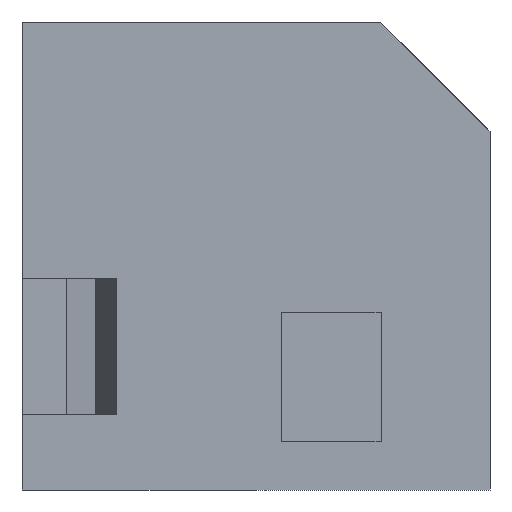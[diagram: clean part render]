
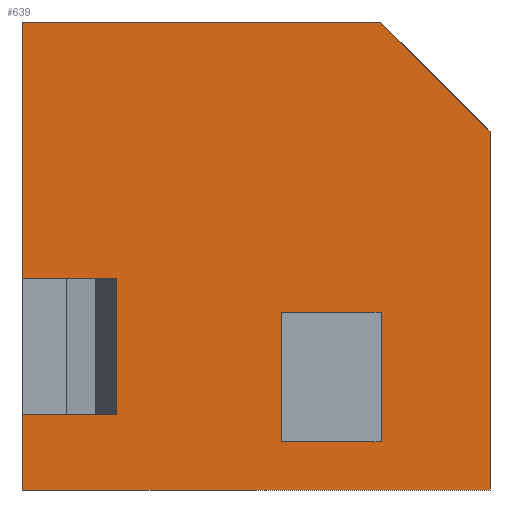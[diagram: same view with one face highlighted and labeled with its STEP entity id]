
A CAD part, left-side view. The second image highlights one B-rep face of the part: STEP entity #639.
In plain terms, the highlighted planar face has unit normal (-1, 0, 0).
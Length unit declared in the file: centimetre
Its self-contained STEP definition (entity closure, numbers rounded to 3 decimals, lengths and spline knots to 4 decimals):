
#10 = EDGE_CURVE ( 'NONE', #595, #474, #571, .T. ) ;
#19 = DIRECTION ( 'NONE',  ( 0., -1., 0. ) ) ;
#25 = CARTESIAN_POINT ( 'NONE',  ( 0., 1000., 1000. ) ) ;
#32 = CARTESIAN_POINT ( 'NONE',  ( 0., 233.357, 1000. ) ) ;
#42 = LINE ( 'NONE', #799, #473 ) ;
#51 = EDGE_CURVE ( 'NONE', #181, #789, #169, .T. ) ;
#52 = VERTEX_POINT ( 'NONE', #359 ) ;
#53 = ORIENTED_EDGE ( 'NONE', *, *, #51, .F. ) ;
#62 = LINE ( 'NONE', #341, #487 ) ;
#68 = CARTESIAN_POINT ( 'NONE',  ( 0., 445.2554, 102.7491 ) ) ;
#73 = LINE ( 'NONE', #828, #832 ) ;
#90 = ORIENTED_EDGE ( 'NONE', *, *, #488, .F. ) ;
#96 = VERTEX_POINT ( 'NONE', #567 ) ;
#107 = VECTOR ( 'NONE', #656, 100. ) ;
#109 = CARTESIAN_POINT ( 'NONE',  ( 0., 797.9463, 160.4788 ) ) ;
#115 = EDGE_LOOP ( 'NONE', ( #378, #90, #204, #770, #506, #743, #53, #650, #304 ) ) ;
#133 = EDGE_CURVE ( 'NONE', #514, #789, #356, .T. ) ;
#135 = DIRECTION ( 'NONE',  ( 0., 0., -1. ) ) ;
#140 = LINE ( 'NONE', #476, #330 ) ;
#169 = LINE ( 'NONE', #292, #565 ) ;
#177 = VERTEX_POINT ( 'NONE', #651 ) ;
#181 = VERTEX_POINT ( 'NONE', #870 ) ;
#195 = ORIENTED_EDGE ( 'NONE', *, *, #412, .F. ) ;
#196 = EDGE_CURVE ( 'NONE', #277, #96, #596, .T. ) ;
#204 = ORIENTED_EDGE ( 'NONE', *, *, #10, .T. ) ;
#220 = CARTESIAN_POINT ( 'NONE',  ( 0., 233.357, 1000. ) ) ;
#226 = VERTEX_POINT ( 'NONE', #725 ) ;
#228 = LINE ( 'NONE', #516, #729 ) ;
#233 = EDGE_LOOP ( 'NONE', ( #738, #195, #704, #261 ) ) ;
#236 = LINE ( 'NONE', #109, #492 ) ;
#248 = FACE_OUTER_BOUND ( 'NONE', #115, .T. ) ;
#261 = ORIENTED_EDGE ( 'NONE', *, *, #334, .F. ) ;
#275 = EDGE_CURVE ( 'NONE', #514, #177, #879, .T. ) ;
#276 = CARTESIAN_POINT ( 'NONE',  ( 0., 445.2554, 102.7491 ) ) ;
#277 = VERTEX_POINT ( 'NONE', #662 ) ;
#292 = CARTESIAN_POINT ( 'NONE',  ( 0., 1000., 1000. ) ) ;
#304 = ORIENTED_EDGE ( 'NONE', *, *, #196, .F. ) ;
#313 = CARTESIAN_POINT ( 'NONE',  ( 0., 797.9463, 160.4788 ) ) ;
#324 = CARTESIAN_POINT ( 'NONE',  ( 0., 1000., 1000. ) ) ;
#327 = CARTESIAN_POINT ( 'NONE',  ( 0., 797.9463, 452.0226 ) ) ;
#330 = VECTOR ( 'NONE', #881, 100. ) ;
#334 = EDGE_CURVE ( 'NONE', #226, #816, #140, .T. ) ;
#337 = DIRECTION ( 'NONE',  ( 0., 0., -1. ) ) ;
#339 = EDGE_CURVE ( 'NONE', #816, #858, #815, .T. ) ;
#341 = CARTESIAN_POINT ( 'NONE',  ( 0., 1000., 1000. ) ) ;
#356 = LINE ( 'NONE', #32, #404 ) ;
#359 = CARTESIAN_POINT ( 'NONE',  ( 0., 797.9463, 160.4788 ) ) ;
#366 = VECTOR ( 'NONE', #337, 100. ) ;
#367 = EDGE_CURVE ( 'NONE', #181, #96, #62, .T. ) ;
#376 = CARTESIAN_POINT ( 'NONE',  ( 0., 445.2554, 379.4308 ) ) ;
#378 = ORIENTED_EDGE ( 'NONE', *, *, #618, .F. ) ;
#393 = DIRECTION ( 'NONE',  ( 0., 0., 1. ) ) ;
#397 = DIRECTION ( 'NONE',  ( 0., 1., 0. ) ) ;
#404 = VECTOR ( 'NONE', #788, 100. ) ;
#412 = EDGE_CURVE ( 'NONE', #858, #525, #228, .T. ) ;
#446 = DIRECTION ( 'NONE',  ( 0., -1., 0. ) ) ;
#459 = CARTESIAN_POINT ( 'NONE',  ( 0., 1000., 160.4788 ) ) ;
#473 = VECTOR ( 'NONE', #735, 100. ) ;
#474 = VERTEX_POINT ( 'NONE', #792 ) ;
#476 = CARTESIAN_POINT ( 'NONE',  ( 0., 232.8557, 379.4308 ) ) ;
#487 = VECTOR ( 'NONE', #135, 100. ) ;
#488 = EDGE_CURVE ( 'NONE', #595, #52, #503, .T. ) ;
#492 = VECTOR ( 'NONE', #393, 100. ) ;
#503 = LINE ( 'NONE', #313, #630 ) ;
#506 = ORIENTED_EDGE ( 'NONE', *, *, #275, .F. ) ;
#511 = VECTOR ( 'NONE', #397, 100. ) ;
#514 = VERTEX_POINT ( 'NONE', #587 ) ;
#516 = CARTESIAN_POINT ( 'NONE',  ( 0., 232.8557, 102.7491 ) ) ;
#522 = CARTESIAN_POINT ( 'NONE',  ( 0., 232.8557, 102.7491 ) ) ;
#525 = VERTEX_POINT ( 'NONE', #522 ) ;
#535 = DIRECTION ( 'NONE',  ( 0., 0., -1. ) ) ;
#557 = AXIS2_PLACEMENT_3D ( 'NONE', #324, #862, #535 ) ;
#565 = VECTOR ( 'NONE', #446, 100. ) ;
#567 = CARTESIAN_POINT ( 'NONE',  ( 0., 1000., 452.0226 ) ) ;
#571 = LINE ( 'NONE', #25, #709 ) ;
#574 = DIRECTION ( 'NONE',  ( 0., -1., 0. ) ) ;
#587 = CARTESIAN_POINT ( 'NONE',  ( 0., 0., 766.643 ) ) ;
#595 = VERTEX_POINT ( 'NONE', #459 ) ;
#596 = LINE ( 'NONE', #327, #511 ) ;
#612 = EDGE_CURVE ( 'NONE', #474, #177, #42, .T. ) ;
#618 = EDGE_CURVE ( 'NONE', #52, #277, #236, .T. ) ;
#630 = VECTOR ( 'NONE', #574, 100. ) ;
#639 = ADVANCED_FACE ( 'NONE', ( #872, #248 ), #787, .F. ) ;
#650 = ORIENTED_EDGE ( 'NONE', *, *, #367, .T. ) ;
#651 = CARTESIAN_POINT ( 'NONE',  ( 0., 0., 0. ) ) ;
#656 = DIRECTION ( 'NONE',  ( 0., 0., -1. ) ) ;
#662 = CARTESIAN_POINT ( 'NONE',  ( 0., 797.9463, 452.0226 ) ) ;
#696 = DIRECTION ( 'NONE',  ( 0., 0., 1. ) ) ;
#704 = ORIENTED_EDGE ( 'NONE', *, *, #339, .F. ) ;
#709 = VECTOR ( 'NONE', #843, 100. ) ;
#725 = CARTESIAN_POINT ( 'NONE',  ( 0., 232.8557, 379.4308 ) ) ;
#729 = VECTOR ( 'NONE', #19, 100. ) ;
#735 = DIRECTION ( 'NONE',  ( 0., -1., 0. ) ) ;
#738 = ORIENTED_EDGE ( 'NONE', *, *, #755, .F. ) ;
#743 = ORIENTED_EDGE ( 'NONE', *, *, #133, .T. ) ;
#755 = EDGE_CURVE ( 'NONE', #525, #226, #73, .T. ) ;
#770 = ORIENTED_EDGE ( 'NONE', *, *, #612, .T. ) ;
#787 = PLANE ( 'NONE',  #557 ) ;
#788 = DIRECTION ( 'NONE',  ( 0., 0.707, 0.707 ) ) ;
#789 = VERTEX_POINT ( 'NONE', #220 ) ;
#792 = CARTESIAN_POINT ( 'NONE',  ( 0., 1000., 0. ) ) ;
#799 = CARTESIAN_POINT ( 'NONE',  ( 0., 1000., 0. ) ) ;
#815 = LINE ( 'NONE', #68, #366 ) ;
#816 = VERTEX_POINT ( 'NONE', #376 ) ;
#828 = CARTESIAN_POINT ( 'NONE',  ( 0., 232.8557, 102.7491 ) ) ;
#832 = VECTOR ( 'NONE', #696, 100. ) ;
#843 = DIRECTION ( 'NONE',  ( 0., 0., -1. ) ) ;
#858 = VERTEX_POINT ( 'NONE', #276 ) ;
#862 = DIRECTION ( 'NONE',  ( 1., 0., 0. ) ) ;
#866 = CARTESIAN_POINT ( 'NONE',  ( 0., 0., 1000. ) ) ;
#870 = CARTESIAN_POINT ( 'NONE',  ( 0., 1000., 1000. ) ) ;
#872 = FACE_BOUND ( 'NONE', #233, .T. ) ;
#879 = LINE ( 'NONE', #866, #107 ) ;
#881 = DIRECTION ( 'NONE',  ( 0., 1., 0. ) ) ;
